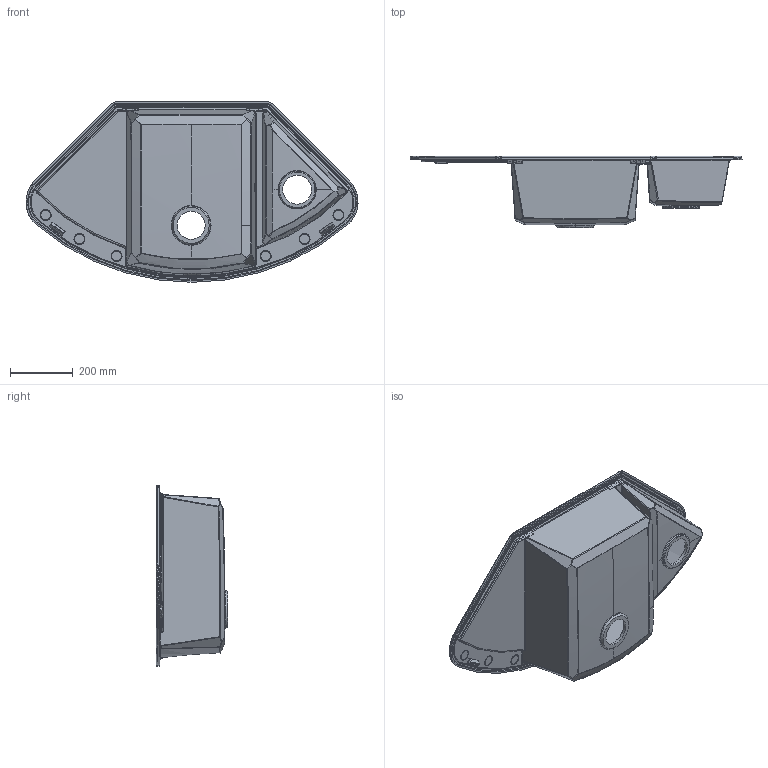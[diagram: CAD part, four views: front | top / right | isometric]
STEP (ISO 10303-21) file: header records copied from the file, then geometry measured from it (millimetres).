
FILE_DESCRIPTION (( 'STEP AP203' ), '1' );
FILE_NAME ('Easy_Corner.STEP', '2018-11-14T16:16:48', ( '' ), ( '' ), 'SwSTEP 2.0', 'SolidWorks 2013', '' );
FILE_SCHEMA (( 'CONFIG_CONTROL_DESIGN' ));
Length unit declared in the file: millimetre
Products named in the file (1): Easy_Corner
Bounding box: 1056.45 x 226.79 x 575 mm (x, y, z)
Volume: 7096722.6 mm3; surface area: 1780781.9 mm2
Topology: 1 solids, 1 shells, 921 faces, 2128 edges, 1195 vertices
Faces by surface type: bspline 425, cylinder 223, plane 91, sphere 87, torus 65, cone 30
Entity records: 42810 total; most frequent: CARTESIAN_POINT 25116, ORIENTED_EDGE 4162, DIRECTION 3149, EDGE_CURVE 2081, AXIS2_PLACEMENT_3D 1384, VERTEX_POINT 1189, EDGE_LOOP 954, ADVANCED_FACE 921
